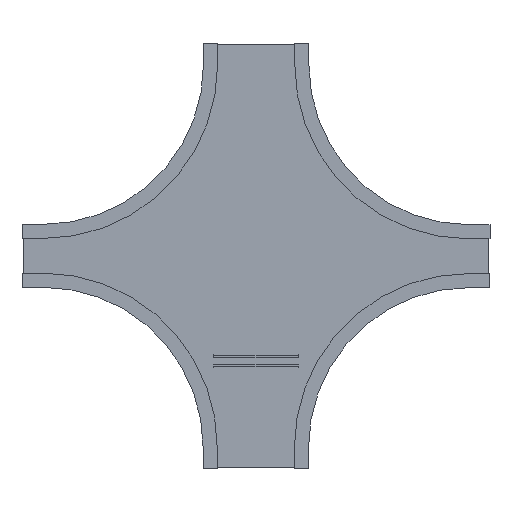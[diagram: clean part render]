
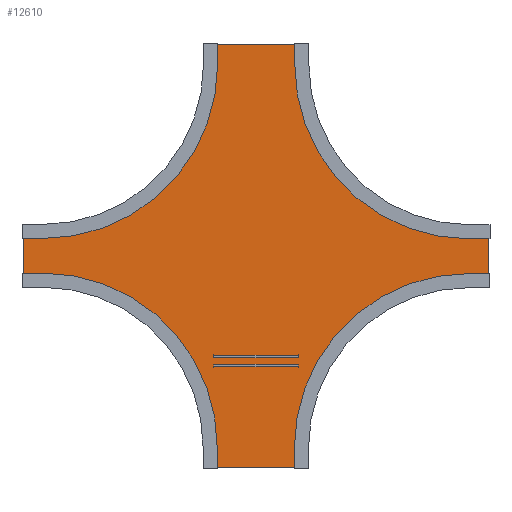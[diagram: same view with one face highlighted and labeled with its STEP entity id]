
A CAD part, front view. The second image highlights one B-rep face of the part: STEP entity #12610.
In plain terms, the highlighted planar face has unit normal (0, -1, 0).
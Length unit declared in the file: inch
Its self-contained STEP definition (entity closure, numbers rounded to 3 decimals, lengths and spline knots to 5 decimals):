
#12307=DIRECTION('',(0.,0.,1.));
#12308=VECTOR('',#12307,5.875);
#12309=CARTESIAN_POINT('',(-32.875,0.,-2.9375));
#12310=LINE('',#12309,#12308);
#12311=DIRECTION('',(1.,0.,0.));
#12312=VECTOR('',#12311,2.785);
#12313=CARTESIAN_POINT('',(-32.875,0.,2.9375));
#12314=LINE('',#12313,#12312);
#12315=CARTESIAN_POINT('',(-30.09,0.,27.09));
#12316=DIRECTION('',(0.,-1.,0.));
#12317=DIRECTION('',(0.,0.,-1.));
#12318=AXIS2_PLACEMENT_3D('',#12315,#12316,#12317);
#12320=DIRECTION('',(0.,0.,1.));
#12321=VECTOR('',#12320,2.785);
#12322=CARTESIAN_POINT('',(-5.9375,0.,27.09));
#12323=LINE('',#12322,#12321);
#12324=DIRECTION('',(1.,0.,0.));
#12325=VECTOR('',#12324,11.875);
#12326=CARTESIAN_POINT('',(-5.9375,0.,29.875));
#12327=LINE('',#12326,#12325);
#12328=DIRECTION('',(0.,0.,-1.));
#12329=VECTOR('',#12328,2.785);
#12330=CARTESIAN_POINT('',(5.9375,0.,29.875));
#12331=LINE('',#12330,#12329);
#12332=CARTESIAN_POINT('',(30.09,0.,27.09));
#12333=DIRECTION('',(0.,-1.,0.));
#12334=DIRECTION('',(-1.,0.,0.));
#12335=AXIS2_PLACEMENT_3D('',#12332,#12333,#12334);
#12337=DIRECTION('',(1.,0.,0.));
#12338=VECTOR('',#12337,2.785);
#12339=CARTESIAN_POINT('',(30.09,0.,2.9375));
#12340=LINE('',#12339,#12338);
#12341=DIRECTION('',(0.,0.,-1.));
#12342=VECTOR('',#12341,5.875);
#12343=CARTESIAN_POINT('',(32.875,0.,2.9375));
#12344=LINE('',#12343,#12342);
#12345=DIRECTION('',(-1.,0.,0.));
#12346=VECTOR('',#12345,2.785);
#12347=CARTESIAN_POINT('',(32.875,0.,-2.9375));
#12348=LINE('',#12347,#12346);
#12349=CARTESIAN_POINT('',(30.09,0.,-27.09));
#12350=DIRECTION('',(0.,-1.,0.));
#12351=DIRECTION('',(0.,0.,1.));
#12352=AXIS2_PLACEMENT_3D('',#12349,#12350,#12351);
#12354=DIRECTION('',(0.,0.,-1.));
#12355=VECTOR('',#12354,2.785);
#12356=CARTESIAN_POINT('',(5.9375,0.,-27.09));
#12357=LINE('',#12356,#12355);
#12358=DIRECTION('',(-1.,0.,0.));
#12359=VECTOR('',#12358,11.875);
#12360=CARTESIAN_POINT('',(5.9375,0.,-29.875));
#12361=LINE('',#12360,#12359);
#12362=DIRECTION('',(0.,0.,1.));
#12363=VECTOR('',#12362,2.785);
#12364=CARTESIAN_POINT('',(-5.9375,0.,-29.875));
#12365=LINE('',#12364,#12363);
#12366=CARTESIAN_POINT('',(-30.09,0.,-27.09));
#12367=DIRECTION('',(0.,-1.,0.));
#12368=DIRECTION('',(1.,0.,0.));
#12369=AXIS2_PLACEMENT_3D('',#12366,#12367,#12368);
#12371=DIRECTION('',(-1.,0.,0.));
#12372=VECTOR('',#12371,2.785);
#12373=CARTESIAN_POINT('',(-30.09,0.,-2.9375));
#12374=LINE('',#12373,#12372);
#12507=CARTESIAN_POINT('',(-32.875,0.,-2.9375));
#12508=CARTESIAN_POINT('',(-32.875,0.,2.9375));
#12509=VERTEX_POINT('',#12507);
#12510=VERTEX_POINT('',#12508);
#12511=CARTESIAN_POINT('',(-30.09,0.,2.9375));
#12512=VERTEX_POINT('',#12511);
#12513=CARTESIAN_POINT('',(-5.9375,0.,27.09));
#12514=VERTEX_POINT('',#12513);
#12515=CARTESIAN_POINT('',(-5.9375,0.,29.875));
#12516=VERTEX_POINT('',#12515);
#12517=CARTESIAN_POINT('',(5.9375,0.,29.875));
#12518=VERTEX_POINT('',#12517);
#12519=CARTESIAN_POINT('',(5.9375,0.,27.09));
#12520=VERTEX_POINT('',#12519);
#12521=CARTESIAN_POINT('',(30.09,0.,2.9375));
#12522=VERTEX_POINT('',#12521);
#12523=CARTESIAN_POINT('',(32.875,0.,2.9375));
#12524=VERTEX_POINT('',#12523);
#12525=CARTESIAN_POINT('',(32.875,0.,-2.9375));
#12526=VERTEX_POINT('',#12525);
#12527=CARTESIAN_POINT('',(30.09,0.,-2.9375));
#12528=VERTEX_POINT('',#12527);
#12529=CARTESIAN_POINT('',(5.9375,0.,-27.09));
#12530=VERTEX_POINT('',#12529);
#12531=CARTESIAN_POINT('',(5.9375,0.,-29.875));
#12532=VERTEX_POINT('',#12531);
#12533=CARTESIAN_POINT('',(-5.9375,0.,-29.875));
#12534=VERTEX_POINT('',#12533);
#12535=CARTESIAN_POINT('',(-5.9375,0.,-27.09));
#12536=VERTEX_POINT('',#12535);
#12537=CARTESIAN_POINT('',(-30.09,0.,-2.9375));
#12538=VERTEX_POINT('',#12537);
#12571=CARTESIAN_POINT('',(0.,0.,0.));
#12572=DIRECTION('',(0.,1.,0.));
#12573=DIRECTION('',(1.,0.,0.));
#12574=AXIS2_PLACEMENT_3D('',#12571,#12572,#12573);
#12575=PLANE('',#12574);
#12577=ORIENTED_EDGE('',*,*,#12576,.T.);
#12579=ORIENTED_EDGE('',*,*,#12578,.T.);
#12581=ORIENTED_EDGE('',*,*,#12580,.T.);
#12583=ORIENTED_EDGE('',*,*,#12582,.T.);
#12585=ORIENTED_EDGE('',*,*,#12584,.T.);
#12587=ORIENTED_EDGE('',*,*,#12586,.T.);
#12589=ORIENTED_EDGE('',*,*,#12588,.T.);
#12591=ORIENTED_EDGE('',*,*,#12590,.T.);
#12593=ORIENTED_EDGE('',*,*,#12592,.T.);
#12595=ORIENTED_EDGE('',*,*,#12594,.T.);
#12597=ORIENTED_EDGE('',*,*,#12596,.T.);
#12599=ORIENTED_EDGE('',*,*,#12598,.T.);
#12601=ORIENTED_EDGE('',*,*,#12600,.T.);
#12603=ORIENTED_EDGE('',*,*,#12602,.T.);
#12605=ORIENTED_EDGE('',*,*,#12604,.T.);
#12607=ORIENTED_EDGE('',*,*,#12606,.T.);
#12608=EDGE_LOOP('',(#12577,#12579,#12581,#12583,#12585,#12587,#12589,#12591,
#12593,#12595,#12597,#12599,#12601,#12603,#12605,#12607));
#12609=FACE_OUTER_BOUND('',#12608,.F.);
#12610=ADVANCED_FACE('',(#12609),#12575,.F.);
#12319=CIRCLE('',#12318,24.1525);
#12336=CIRCLE('',#12335,24.1525);
#12353=CIRCLE('',#12352,24.1525);
#12370=CIRCLE('',#12369,24.1525);
#12576=EDGE_CURVE('',#12509,#12510,#12310,.T.);
#12578=EDGE_CURVE('',#12510,#12512,#12314,.T.);
#12580=EDGE_CURVE('',#12512,#12514,#12319,.T.);
#12582=EDGE_CURVE('',#12514,#12516,#12323,.T.);
#12584=EDGE_CURVE('',#12516,#12518,#12327,.T.);
#12586=EDGE_CURVE('',#12518,#12520,#12331,.T.);
#12588=EDGE_CURVE('',#12520,#12522,#12336,.T.);
#12590=EDGE_CURVE('',#12522,#12524,#12340,.T.);
#12592=EDGE_CURVE('',#12524,#12526,#12344,.T.);
#12594=EDGE_CURVE('',#12526,#12528,#12348,.T.);
#12596=EDGE_CURVE('',#12528,#12530,#12353,.T.);
#12598=EDGE_CURVE('',#12530,#12532,#12357,.T.);
#12600=EDGE_CURVE('',#12532,#12534,#12361,.T.);
#12602=EDGE_CURVE('',#12534,#12536,#12365,.T.);
#12604=EDGE_CURVE('',#12536,#12538,#12370,.T.);
#12606=EDGE_CURVE('',#12538,#12509,#12374,.T.);
